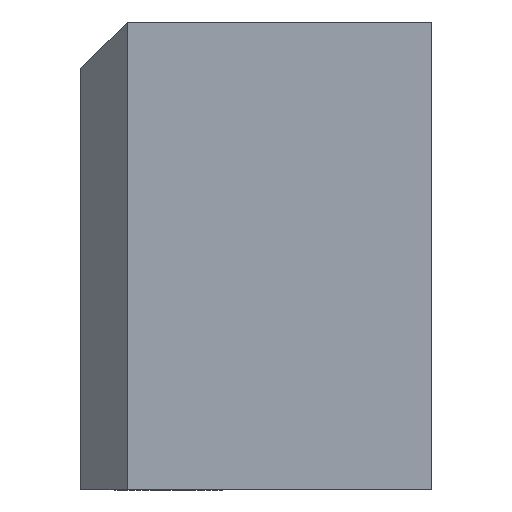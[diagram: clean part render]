
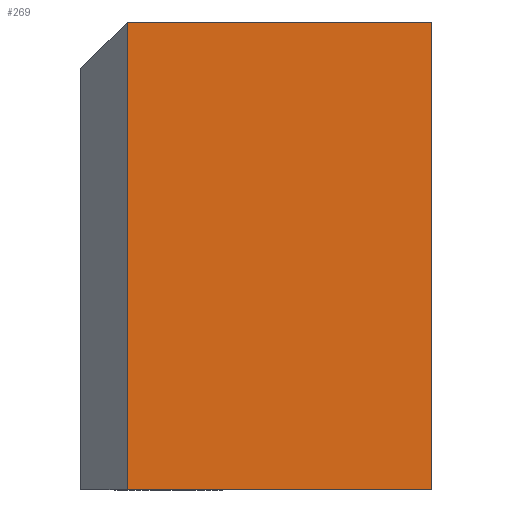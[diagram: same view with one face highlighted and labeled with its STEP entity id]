
A CAD part, left-side view. The second image highlights one B-rep face of the part: STEP entity #269.
In plain terms, the highlighted planar face has unit normal (-1, 0, 0).
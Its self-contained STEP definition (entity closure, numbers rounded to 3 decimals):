
#42 = VERTEX_POINT ( 'NONE', #920 ) ;
#43 = EDGE_LOOP ( 'NONE', ( #219, #839, #807, #624 ) ) ;
#52 = VECTOR ( 'NONE', #292, 1000. ) ;
#57 = VERTEX_POINT ( 'NONE', #467 ) ;
#87 = AXIS2_PLACEMENT_3D ( 'NONE', #468, #612, #177 ) ;
#147 = LINE ( 'NONE', #222, #595 ) ;
#148 = DIRECTION ( 'NONE',  ( 0., -1., 0. ) ) ;
#177 = DIRECTION ( 'NONE',  ( 0., 0., -1. ) ) ;
#181 = EDGE_CURVE ( 'NONE', #57, #42, #368, .T. ) ;
#182 = VECTOR ( 'NONE', #534, 1000. ) ;
#219 = ORIENTED_EDGE ( 'NONE', *, *, #591, .F. ) ;
#222 = CARTESIAN_POINT ( 'NONE',  ( -570.95, -166.5, 0. ) ) ;
#269 = ADVANCED_FACE ( 'NONE', ( #826 ), #619, .F. ) ;
#284 = CARTESIAN_POINT ( 'NONE',  ( -570.95, -166.5, 10. ) ) ;
#292 = DIRECTION ( 'NONE',  ( 0., 0., -1. ) ) ;
#295 = LINE ( 'NONE', #798, #52 ) ;
#368 = LINE ( 'NONE', #284, #856 ) ;
#371 = CARTESIAN_POINT ( 'NONE',  ( -570.95, -160., 0. ) ) ;
#458 = CARTESIAN_POINT ( 'NONE',  ( -570.95, -166.5, 10. ) ) ;
#467 = CARTESIAN_POINT ( 'NONE',  ( -570.95, -166.5, 10. ) ) ;
#468 = CARTESIAN_POINT ( 'NONE',  ( -570.95, -166.5, 10. ) ) ;
#534 = DIRECTION ( 'NONE',  ( 0., -1., 0. ) ) ;
#555 = VERTEX_POINT ( 'NONE', #371 ) ;
#591 = EDGE_CURVE ( 'NONE', #712, #57, #631, .T. ) ;
#595 = VECTOR ( 'NONE', #148, 1000. ) ;
#612 = DIRECTION ( 'NONE',  ( 1., 0., 0. ) ) ;
#619 = PLANE ( 'NONE',  #87 ) ;
#624 = ORIENTED_EDGE ( 'NONE', *, *, #181, .F. ) ;
#631 = LINE ( 'NONE', #458, #182 ) ;
#662 = CARTESIAN_POINT ( 'NONE',  ( -570.95, -160., 10. ) ) ;
#678 = EDGE_CURVE ( 'NONE', #555, #42, #147, .T. ) ;
#683 = EDGE_CURVE ( 'NONE', #712, #555, #295, .T. ) ;
#712 = VERTEX_POINT ( 'NONE', #662 ) ;
#798 = CARTESIAN_POINT ( 'NONE',  ( -570.95, -160., 10. ) ) ;
#801 = DIRECTION ( 'NONE',  ( 0., 0., -1. ) ) ;
#807 = ORIENTED_EDGE ( 'NONE', *, *, #678, .T. ) ;
#826 = FACE_OUTER_BOUND ( 'NONE', #43, .T. ) ;
#839 = ORIENTED_EDGE ( 'NONE', *, *, #683, .T. ) ;
#856 = VECTOR ( 'NONE', #801, 1000. ) ;
#920 = CARTESIAN_POINT ( 'NONE',  ( -570.95, -166.5, 0. ) ) ;
